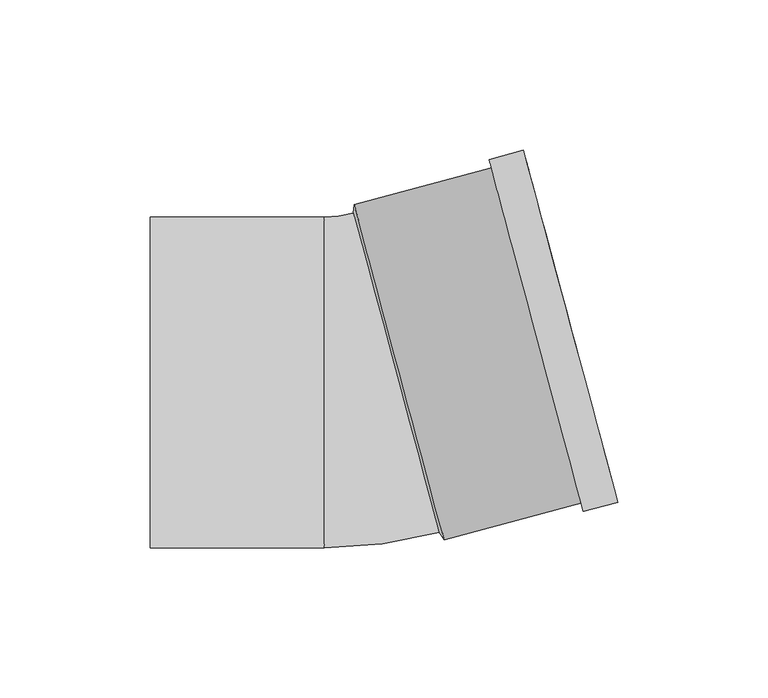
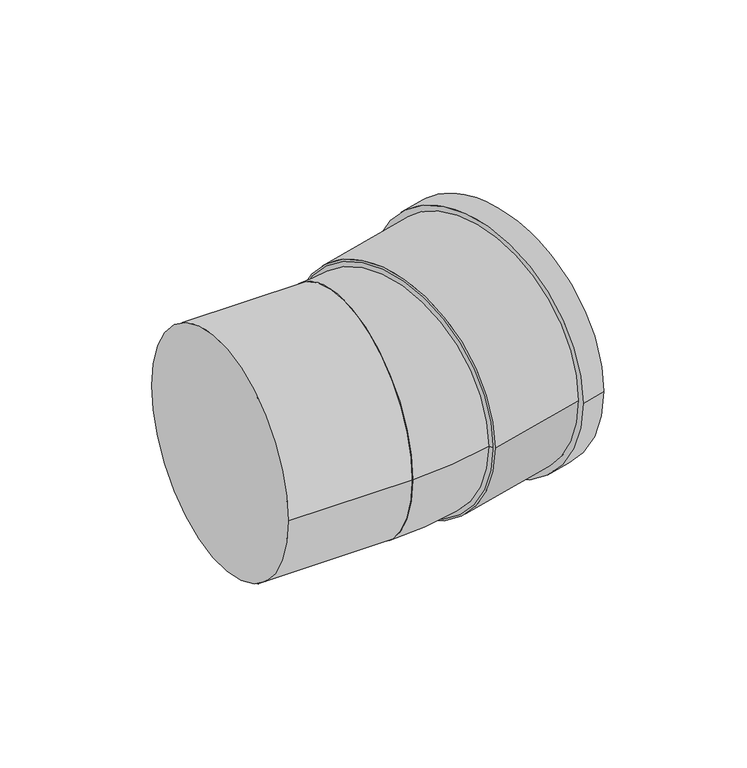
"""IFC4 building model written with IfcOpenShell, lengths in millimetres: pipe fitting geometry, Superdrain SKB Bend : Superdrain SKB Bend."""

from ifc_helpers import new_model, si_unit, point, frame, origin, origin_2d, place, context, project, spatial, polyline, circle_curve, ellipse_curve, trimmed, segment, composite_curve, outline, extrude, source, transform, mapped, element, save
from ifc_brep_helpers import plane_surface, revolved_surface, advanced_brep


def pipe_fitting_53d06ba0(model_context):
    return source(origin(), model_context, "Body", "SolidModel", [
        advanced_brep(
        [(26.0193426, -49.9683281, 0.0), (-2.4507524, 56.2835128, 0.0), (-12.2, -55.0, 0.0), (-12.2, 55.0, 0.0)],
        [
            (0, 1, circle_curve(frame((11.7842951, 3.1575924, 0.0), z_axis=(0.965925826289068, 0.2588190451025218, 0.0), x_axis=(-0.2588190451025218, 0.965925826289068, 0.0)), 55.0)),
            (1, 0, circle_curve(frame((11.7842951, 3.1575924, 0.0), z_axis=(0.965925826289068, 0.2588190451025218, 0.0), x_axis=(-0.2588190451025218, 0.965925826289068, 0.0)), 55.0)),
            (2, 3, circle_curve(frame((-12.2, 0.0, 0.0), z_axis=(-1.0, 0.0, 0.0), x_axis=(0.0, 1.0, 0.0)), 55.0)),
            (3, 2, circle_curve(frame((-12.2, 0.0, 0.0), z_axis=(-1.0, 0.0, 0.0), x_axis=(0.0, 1.0, 0.0)), 55.0)),
            (3, 1, circle_curve(frame((-12.2, 92.6682002, 0.0), z_axis=(0.0, 0.0, 1.0), x_axis=(1.0, 0.0, 0.0)), 37.6682002)),
            (0, 2, circle_curve(frame((-12.2, 92.6682002, 0.0), z_axis=(0.0, 0.0, -1.0), x_axis=(1.0, 0.0, 0.0)), 147.6682002)),
        ],
        [
            plane_surface(frame((11.7842951, 3.1575924, 0.0), z_axis=(0.965925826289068, 0.25881904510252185, 0.0), x_axis=(0.0, 0.0, -1.0))),
            plane_surface(frame((-12.2, 0.0, 0.0), z_axis=(-1.0, 0.0, 0.0), x_axis=(0.0, 0.0, -1.0))),
            revolved_surface(trimmed(ellipse_curve(frame((80.4682002, 92.6682002, 0.0), z_axis=(0.0, -1.0, 0.0), x_axis=(-1.0, 0.0, 0.0)), 55.0, 55.0), [point((25.4682002, 92.6682002, 0.0))], [point((135.4682002, 92.6682002, 0.0))], True, "CARTESIAN"), (-12.2, 92.6682002, 0.0), (0.0, 0.0, 1.0)),
            revolved_surface(trimmed(ellipse_curve(frame((80.4682002, 92.6682002, 0.0), z_axis=(0.0, -1.0, 0.0), x_axis=(-1.0, 0.0, 0.0)), 55.0, 55.0), [point((135.4682002, 92.6682002, 0.0))], [point((25.4682002, 92.6682002, 0.0))], True, "CARTESIAN"), (-12.2, 92.6682002, 0.0), (0.0, 0.0, 1.0)),
        ],
        [
            (0, [[1, 2]]),
            (1, [[3, 4]]),
            (2, [[-4, 5, -1, 6]]),
            (3, [[-3, -6, -2, -5]]),
        ],
    ),
        extrude(outline(composite_curve([segment(trimmed(circle_curve(origin_2d(), 57.75), [point((0.0, 57.75))], [point((0.0, -57.75))], False, "CARTESIAN"), True, "CONTINUOUS"), segment(trimmed(circle_curve(origin_2d(), 57.75), [point((0.0, -57.75))], [point((0.0, 57.75))], False, "CARTESIAN"), True, "CONTINUOUS")], self_intersect=False), holes=[composite_curve([segment(trimmed(circle_curve(origin_2d(), 55.0), [point((0.0, 55.0000001))], [point((0.0, -55.0))], True, "CARTESIAN"), True, "CONTINUOUS"), segment(trimmed(circle_curve(origin_2d(), 55.0), [point((0.0, -55.0))], [point((0.0, 55.0000001))], True, "CARTESIAN"), True, "CONTINUOUS")], self_intersect=False)]), frame((12.7502209, 3.4164114, 0.0), z_axis=(0.9659258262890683, 0.25881904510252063, 0.0), x_axis=(0.0, 0.0, 1.0)), (0.0, 0.0, 1.0), 59.0),
        extrude(outline(composite_curve([segment(trimmed(circle_curve(origin_2d(), 60.6375), [point((0.0, -60.6375))], [point((0.0, 60.6375))], False, "CARTESIAN"), True, "CONTINUOUS"), segment(trimmed(circle_curve(origin_2d(), 60.6375), [point((0.0, 60.6375))], [point((0.0, -60.6375))], False, "CARTESIAN"), True, "CONTINUOUS")], self_intersect=False), holes=[composite_curve([segment(trimmed(circle_curve(origin_2d(), 55.0), [point((0.0, -55.0000001))], [point((0.0, 55.0))], True, "CARTESIAN"), True, "CONTINUOUS"), segment(trimmed(circle_curve(origin_2d(), 55.0), [point((0.0, 55.0))], [point((0.0, -55.0000001))], True, "CARTESIAN"), True, "CONTINUOUS")], self_intersect=False)]), frame((58.3419199, 15.6326703, 0.0), z_axis=(0.9659258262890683, 0.25881904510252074, 0.0), x_axis=(0.0, 0.0, 1.0)), (0.0, 0.0, 1.0), 11.8),
        advanced_brep(
        [(27.6970208, -52.3658051, 0.0), (-2.1965789, 59.1986279, 0.0), (26.0193426, -49.9683281, 0.0), (-2.4507524, 56.2835128, 0.0)],
        [
            (0, 1, circle_curve(frame((12.7502209, 3.4164114, 0.0), z_axis=(0.9659258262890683, 0.2588190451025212, 0.0), x_axis=(0.25881904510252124, -0.9659258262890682, 0.0)), 57.75)),
            (1, 0, circle_curve(frame((12.7502209, 3.4164114, 0.0), z_axis=(0.9659258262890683, 0.2588190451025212, 0.0), x_axis=(-0.25881904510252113, 0.9659258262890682, 0.0)), 57.75)),
            (2, 3, circle_curve(frame((11.7842951, 3.1575924, 0.0), z_axis=(-0.9659258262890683, -0.2588190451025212, 0.0), x_axis=(-0.25881904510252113, 0.9659258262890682, 0.0)), 55.0)),
            (3, 2, circle_curve(frame((11.7842951, 3.1575924, 0.0), z_axis=(-0.9659258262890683, -0.2588190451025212, 0.0), x_axis=(0.25881904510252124, -0.9659258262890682, 0.0)), 55.0)),
            (3, 1),
            (0, 2),
        ],
        [
            plane_surface(frame((12.7502209, 3.4164114, 0.0), z_axis=(0.9659258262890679, 0.25881904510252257, 0.0), x_axis=(0.0, 0.0, -1.0))),
            plane_surface(frame((11.7842951, 3.1575924, 0.0), z_axis=(-0.9659258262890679, -0.25881904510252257, 0.0), x_axis=(0.0, 0.0, -1.0))),
            revolved_surface(polyline([(-2.4507523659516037, 56.28351267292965, 0.0), (-2.1965789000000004, 59.1986279, 0.0)]), (-7.5342214, -2.0187886, 0.0), (0.9659258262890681, 0.25881904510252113, 0.0)),
            revolved_surface(polyline([(26.01934255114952, -49.96832805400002, 0.0), (27.697020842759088, -52.365805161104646, 0.0)]), (-7.5342214, -2.0187886, 0.0), (0.9659258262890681, 0.25881904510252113, 0.0)),
        ],
        [
            (0, [[1, 2]]),
            (1, [[3, 4]]),
            (2, [[-4, 5, -1, 6]]),
            (3, [[-3, -6, -2, -5]]),
        ],
    ),
        extrude(outline(composite_curve([segment(trimmed(circle_curve(origin_2d(), 55.0), [point((-55.0, 0.0))], [point((55.0, 0.0))], False, "CARTESIAN"), True, "CONTINUOUS"), segment(trimmed(circle_curve(origin_2d(), 55.0), [point((55.0, 0.0))], [point((-55.0, 0.0))], False, "CARTESIAN"), True, "CONTINUOUS")], self_intersect=False)), frame((-70.0, 0.0, 0.0), z_axis=(1.0, 0.0, 0.0), x_axis=(0.0, 1.0, 0.0)), (0.0, 0.0, 1.0), 57.8),
    ])


if __name__ == "__main__":
    model = new_model("IFC4")
    model_context = context("Model", 3, world=origin())
    ifc_project = project(units=[si_unit("LENGTHUNIT", "METRE", prefix="MILLI")], contexts=[model_context])
    site = spatial("IfcSite", under=ifc_project)
    building = spatial("IfcBuilding", under=site)
    placement = place(None, origin())
    pipe_fitting_shape = pipe_fitting_53d06ba0(model_context)
    element("IfcPipeFitting", 1, ObjectType="Superdrain SKB Bend : Superdrain SKB Bend", at=placement, inside=building, context=model_context, shape_type="MappedRepresentation", body=[
        mapped(pipe_fitting_shape, transform((0.0, 0.0, 0.0), x_axis=(1.0, 0.0, 0.0), y_axis=(0.0, 1.0, 0.0), z_axis=(0.0, 0.0, 1.0))),
    ])
    save(model, "model.ifc")
